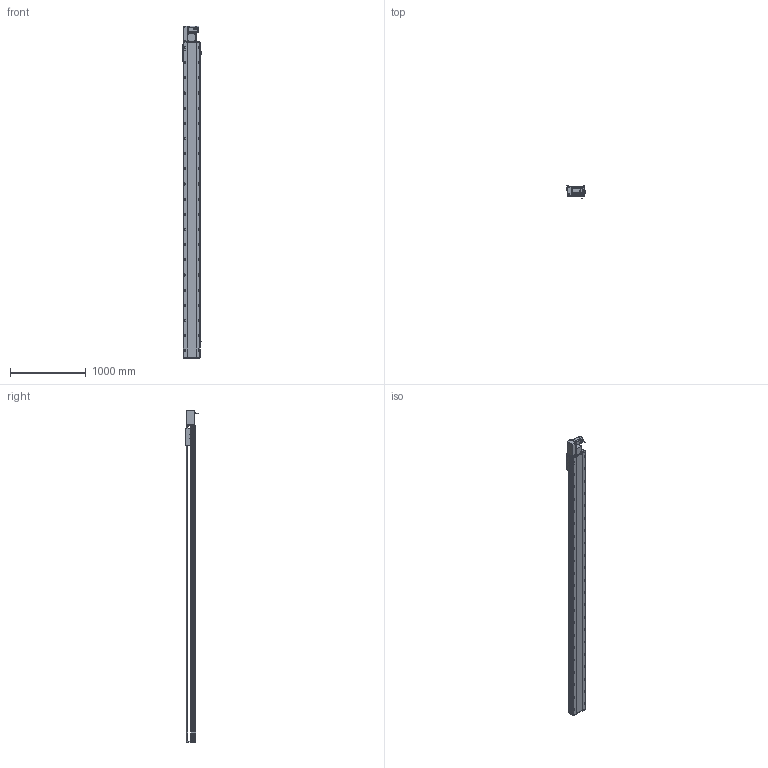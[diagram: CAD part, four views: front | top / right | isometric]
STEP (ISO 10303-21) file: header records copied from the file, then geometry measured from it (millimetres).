
FILE_DESCRIPTION (( 'STEP AP214' ), '1' );
FILE_NAME ('RTB22S-XX-3800-L-M75-C4.STEP', '2025-12-12T03:38:05', ( '' ), ( '' ), 'SwSTEP 2.0', 'SolidWorks 2018', '' );
FILE_SCHEMA (( 'AUTOMOTIVE_DESIGN' ));
Length unit declared in the file: millimetre
Products named in the file (14): RTB22S-GY-018P^RTB22S-L-々湍釱蚾饜_RTB22S-XX-XX-L-M75-C4; RTB22S-GY-008-M75--萇儂啣^RTB22S-L-々湍釱蚾饜_RTB22S-XX-XX-L-M75-C4; RTB22S-GY-005P^RTB22S-L-々湍釱蚾饜_RTB22S-XX-XX-L-M75-C4; RTB22S-L-011菁釱^RTB22S-XX-XX-L-M75-C4; RTB22S-XX-3800-L-M75-C4; RTH22-GY-013外置感应片^RTB22S-XX-XX-L-M75-C4; RTB22S-GY-017P^RTB22S-L-々湍釱蚾饜_RTB22S-XX-XX-L-M75-C4; 750W萇儂^RTB22S-XX-XX-L-M75-C4; OMRON EE-SX672 传感器^RTB22S-XX-XX-L-M75-C4; RTB22S-GY-001耜裔^RTB22S-XX-XX-L-M75-C4; RTB22S-L-004賑釱^RTB22S-XX-XX-L-M75-C4; RTB22S-GY-007奻裔^RTB22S-XX-XX-L-M75-C4; RTB22S-L-々湍釱蚾饜^RTB22S-XX-XX-L-M75-C4; RTB22S-GY-014--々湍釱^RTB22S-L-々湍釱蚾饜_RTB22S-XX-XX-L-M75-C4
Assembly tree (16 placements, depth 3):
  RTB22S-XX-3800-L-M75-C4
    RTB22S-L-011菁釱^RTB22S-XX-XX-L-M75-C4
    750W萇儂^RTB22S-XX-XX-L-M75-C4
    RTB22S-L-004賑釱^RTB22S-XX-XX-L-M75-C4
    OMRON EE-SX672 传感器^RTB22S-XX-XX-L-M75-C4  x3
    RTH22-GY-013外置感应片^RTB22S-XX-XX-L-M75-C4
    RTB22S-GY-007奻裔^RTB22S-XX-XX-L-M75-C4
    RTB22S-GY-001耜裔^RTB22S-XX-XX-L-M75-C4
    RTB22S-L-々湍釱蚾饜^RTB22S-XX-XX-L-M75-C4
      RTB22S-GY-014--々湍釱^RTB22S-L-々湍釱蚾饜_RTB22S-XX-XX-L-M75-C4
      RTB22S-GY-017P^RTB22S-L-々湍釱蚾饜_RTB22S-XX-XX-L-M75-C4  x2
      RTB22S-GY-005P^RTB22S-L-々湍釱蚾饜_RTB22S-XX-XX-L-M75-C4
      RTB22S-GY-008-M75--萇儂啣^RTB22S-L-々湍釱蚾饜_RTB22S-XX-XX-L-M75-C4
      RTB22S-GY-018P^RTB22S-L-々湍釱蚾饜_RTB22S-XX-XX-L-M75-C4
Bounding box: 238.5 x 162.7 x 4379 mm (x, y, z)
Volume: 53912616.2 mm3; surface area: 5477253 mm2
Topology: 15 solids, 15 shells, 2217 faces, 6036 edges, 3842 vertices
Faces by surface type: plane 941, cylinder 778, bspline 296, cone 190, sphere 8, torus 4
Entity records: 61322 total; most frequent: CARTESIAN_POINT 17096, ORIENTED_EDGE 8756, DIRECTION 8652, EDGE_CURVE 4378, AXIS2_PLACEMENT_3D 3138, VERTEX_POINT 2846, VECTOR 2376, LINE 2376
